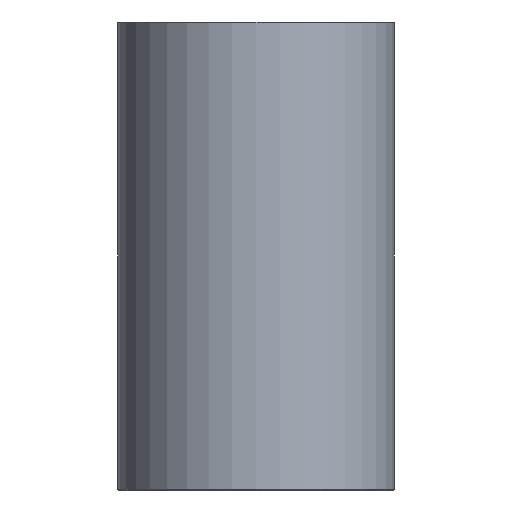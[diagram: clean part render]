
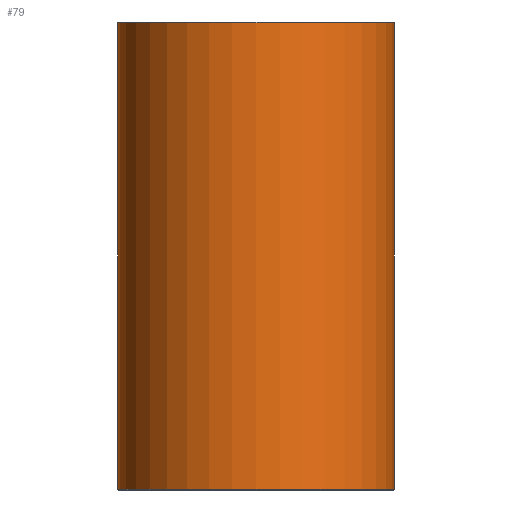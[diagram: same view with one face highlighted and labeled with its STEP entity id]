
A CAD part, front view. The second image highlights one B-rep face of the part: STEP entity #79.
In plain terms, the highlighted cylindrical face has radius 34 mm (diameter 68 mm), a full revolution.
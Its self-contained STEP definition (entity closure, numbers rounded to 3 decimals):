
#79=ADVANCED_FACE('',(#96,#97),#98,.T.);
#96=FACE_OUTER_BOUND('',#120,.T.);
#97=FACE_OUTER_BOUND('',#121,.T.);
#98=CYLINDRICAL_SURFACE('',#122,34.0);
#120=EDGE_LOOP('',(#152));
#121=EDGE_LOOP('',(#153));
#122=AXIS2_PLACEMENT_3D('',#154,#155,#156);
#152=ORIENTED_EDGE('',*,*,#178,.T.);
#153=ORIENTED_EDGE('',*,*,#177,.T.);
#154=CARTESIAN_POINT('',(0.0,0.0,115.0));
#155=DIRECTION('',(0.0,0.0,-1.0));
#156=DIRECTION('',(-1.0,0.0,0.0));
#177=EDGE_CURVE('',#190,#190,#191,.T.);
#178=EDGE_CURVE('',#192,#192,#193,.F.);
#190=VERTEX_POINT('',#206);
#191=CIRCLE('',#207,34.0);
#192=VERTEX_POINT('',#208);
#193=CIRCLE('',#209,34.0);
#206=CARTESIAN_POINT('',(34.0,0.0,0.2));
#207=AXIS2_PLACEMENT_3D('',#227,#228,#229);
#208=CARTESIAN_POINT('',(34.0,0.,114.8));
#209=AXIS2_PLACEMENT_3D('',#230,#231,#232);
#227=CARTESIAN_POINT('',(0.0,0.0,0.2));
#228=DIRECTION('',(0.0,0.0,1.0));
#229=DIRECTION('',(1.0,0.0,0.0));
#230=CARTESIAN_POINT('',(0.0,0.0,114.8));
#231=DIRECTION('',(0.0,0.0,1.0));
#232=DIRECTION('',(1.0,0.0,0.0));
